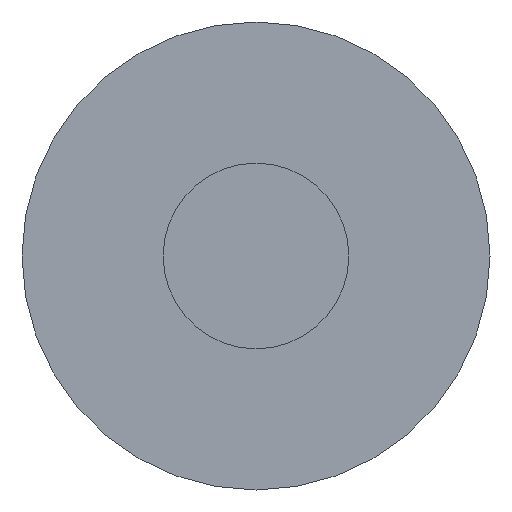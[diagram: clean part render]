
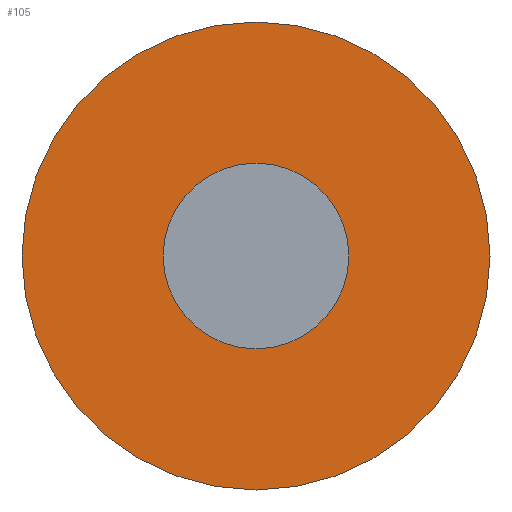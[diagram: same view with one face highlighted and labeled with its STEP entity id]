
A CAD part, front view. The second image highlights one B-rep face of the part: STEP entity #105.
In plain terms, the highlighted planar face has unit normal (0, -1, 0).
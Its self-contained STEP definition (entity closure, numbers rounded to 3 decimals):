
#22 = VERTEX_POINT('',#23);
#23 = CARTESIAN_POINT('',(-26.75,29.5,198.54));
#32 = CYLINDRICAL_SURFACE('',#33,6.);
#33 = AXIS2_PLACEMENT_3D('',#34,#35,#36);
#34 = CARTESIAN_POINT('',(-32.75,29.5,198.54));
#35 = DIRECTION('',(0.,-1.,-0.));
#36 = DIRECTION('',(1.,0.,0.));
#79 = EDGE_CURVE('',#22,#22,#80,.T.);
#80 = SURFACE_CURVE('',#81,(#86,#93),.PCURVE_S1.);
#81 = CIRCLE('',#82,6.);
#82 = AXIS2_PLACEMENT_3D('',#83,#84,#85);
#83 = CARTESIAN_POINT('',(-32.75,29.5,198.54));
#84 = DIRECTION('',(-0.,1.,0.));
#85 = DIRECTION('',(1.,0.,0.));
#86 = PCURVE('',#32,#87);
#87 = DEFINITIONAL_REPRESENTATION('',(#88),#92);
#88 = LINE('',#89,#90);
#89 = CARTESIAN_POINT('',(-0.,0.));
#90 = VECTOR('',#91,1.);
#91 = DIRECTION('',(-1.,0.));
#92 = ( GEOMETRIC_REPRESENTATION_CONTEXT(2) 
PARAMETRIC_REPRESENTATION_CONTEXT() REPRESENTATION_CONTEXT('2D SPACE',''
  ) );
#93 = PCURVE('',#94,#99);
#94 = PLANE('',#95);
#95 = AXIS2_PLACEMENT_3D('',#96,#97,#98);
#96 = CARTESIAN_POINT('',(-32.75,29.5,198.54));
#97 = DIRECTION('',(0.,1.,0.));
#98 = DIRECTION('',(0.,-0.,1.));
#99 = DEFINITIONAL_REPRESENTATION('',(#100),#104);
#100 = CIRCLE('',#101,6.);
#101 = AXIS2_PLACEMENT_2D('',#102,#103);
#102 = CARTESIAN_POINT('',(0.,0.));
#103 = DIRECTION('',(0.,1.));
#104 = ( GEOMETRIC_REPRESENTATION_CONTEXT(2) 
PARAMETRIC_REPRESENTATION_CONTEXT() REPRESENTATION_CONTEXT('2D SPACE',''
  ) );
#105 = ADVANCED_FACE('',(#106,#109),#94,.F.);
#106 = FACE_BOUND('',#107,.F.);
#107 = EDGE_LOOP('',(#108));
#108 = ORIENTED_EDGE('',*,*,#79,.T.);
#109 = FACE_BOUND('',#110,.F.);
#110 = EDGE_LOOP('',(#111));
#111 = ORIENTED_EDGE('',*,*,#112,.F.);
#112 = EDGE_CURVE('',#113,#113,#115,.T.);
#113 = VERTEX_POINT('',#114);
#114 = CARTESIAN_POINT('',(-30.37,29.5,198.54));
#115 = SURFACE_CURVE('',#116,(#121,#128),.PCURVE_S1.);
#116 = CIRCLE('',#117,2.38);
#117 = AXIS2_PLACEMENT_3D('',#118,#119,#120);
#118 = CARTESIAN_POINT('',(-32.75,29.5,198.54));
#119 = DIRECTION('',(-0.,1.,0.));
#120 = DIRECTION('',(1.,0.,0.));
#121 = PCURVE('',#94,#122);
#122 = DEFINITIONAL_REPRESENTATION('',(#123),#127);
#123 = CIRCLE('',#124,2.38);
#124 = AXIS2_PLACEMENT_2D('',#125,#126);
#125 = CARTESIAN_POINT('',(0.,0.));
#126 = DIRECTION('',(0.,1.));
#127 = ( GEOMETRIC_REPRESENTATION_CONTEXT(2) 
PARAMETRIC_REPRESENTATION_CONTEXT() REPRESENTATION_CONTEXT('2D SPACE',''
  ) );
#128 = PCURVE('',#129,#134);
#129 = CYLINDRICAL_SURFACE('',#130,2.38);
#130 = AXIS2_PLACEMENT_3D('',#131,#132,#133);
#131 = CARTESIAN_POINT('',(-32.75,-32.5,198.54));
#132 = DIRECTION('',(0.,-1.,-0.));
#133 = DIRECTION('',(1.,0.,0.));
#134 = DEFINITIONAL_REPRESENTATION('',(#135),#139);
#135 = LINE('',#136,#137);
#136 = CARTESIAN_POINT('',(-0.,-62.));
#137 = VECTOR('',#138,1.);
#138 = DIRECTION('',(-1.,0.));
#139 = ( GEOMETRIC_REPRESENTATION_CONTEXT(2) 
PARAMETRIC_REPRESENTATION_CONTEXT() REPRESENTATION_CONTEXT('2D SPACE',''
  ) );
